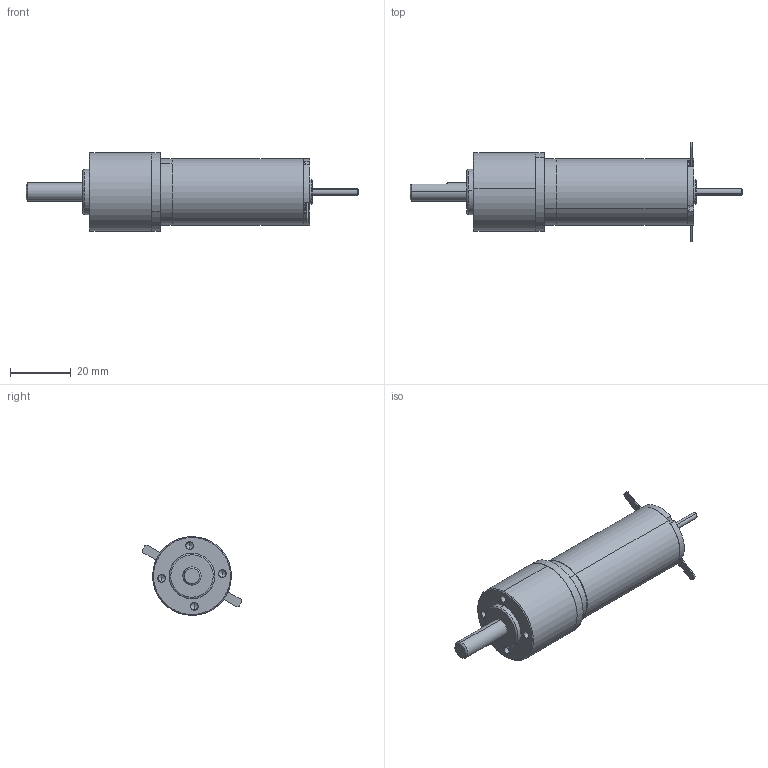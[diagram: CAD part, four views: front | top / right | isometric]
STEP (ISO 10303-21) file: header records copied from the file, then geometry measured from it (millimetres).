
FILE_DESCRIPTION (( 'STEP AP214' ), '1' );
FILE_NAME ('DCX22LG + GP26A-1 étage.STEP', '2014-10-15T08:05:48', ( '' ), ( '' ), 'SwSTEP 2.0', 'SolidWorks 2013', '' );
FILE_SCHEMA (( 'AUTOMOTIVE_DESIGN' ));
Length unit declared in the file: millimetre
Products named in the file (19): 1; 3; 2; 9; 13; 11; 10; 5; 8; 12; DCX22LG + GP26A-1 étage; 1005018; GP26A-1st; DCX22LG; 4; 6; 7; 1228536; 14
Assembly tree (18 placements, depth 3):
  DCX22LG + GP26A-1 étage
    DCX22LG
      12
      8
      5
      10
      11
      13
      9
      2
      3
      1
      14
      1228536
      7
      6
      4
    GP26A-1st
    1005018
Bounding box: 109.55 x 32.86 x 26 mm (x, y, z)
Volume: 24762.8 mm3; surface area: 15445.8 mm2
Topology: 17 solids, 17 shells, 890 faces, 2133 edges, 1325 vertices
Faces by surface type: cylinder 337, plane 267, cone 201, bspline 85
Entity records: 38998 total; most frequent: CARTESIAN_POINT 8289, DIRECTION 4655, ORIENTED_EDGE 4246, EDGE_CURVE 2123, AXIS2_PLACEMENT_3D 1810, VERTEX_POINT 1325, VECTOR 1035, LINE 1035
